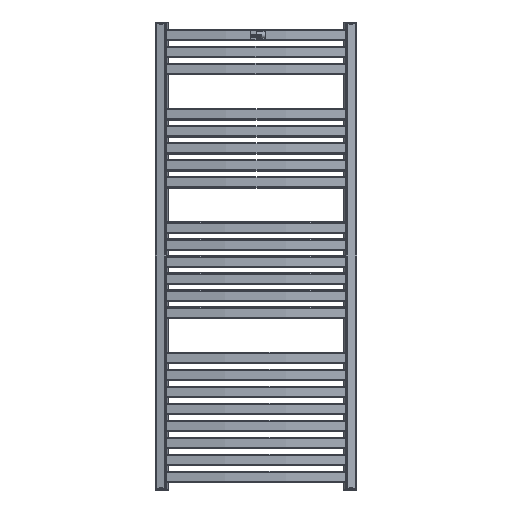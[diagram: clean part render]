
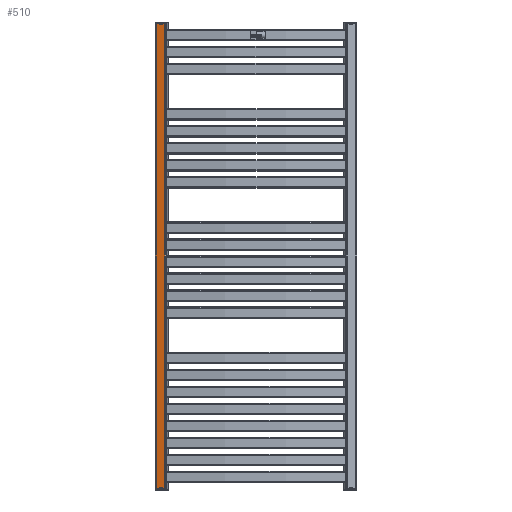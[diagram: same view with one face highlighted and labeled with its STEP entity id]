
A CAD part, front view. The second image highlights one B-rep face of the part: STEP entity #510.
In plain terms, the highlighted planar face has unit normal (-0.205, -0.979, 0) as drawn and (1, 0, 0) by its records, which use the part's own axes.
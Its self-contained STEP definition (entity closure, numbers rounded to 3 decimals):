
#510 = ADVANCED_FACE( '', ( #1187 ), #1188, .T. );
#1187 = FACE_OUTER_BOUND( '', #2049, .T. );
#1188 = PLANE( '', #2050 );
#2049 = EDGE_LOOP( '', ( #3623, #3624, #3625, #3626 ) );
#2050 = AXIS2_PLACEMENT_3D( '', #3627, #3628, #3629 );
#3623 = ORIENTED_EDGE( '', *, *, #5401, .T. );
#3624 = ORIENTED_EDGE( '', *, *, #5498, .T. );
#3625 = ORIENTED_EDGE( '', *, *, #5166, .F. );
#3626 = ORIENTED_EDGE( '', *, *, #5499, .T. );
#3627 = CARTESIAN_POINT( '', ( 15., 1236., -15. ) );
#3628 = DIRECTION( '', ( 1., 0., 0. ) );
#3629 = DIRECTION( '', ( 0., 0., -1. ) );
#5166 = EDGE_CURVE( '', #6282, #6283, #6284, .T. );
#5401 = EDGE_CURVE( '', #6677, #6675, #6678, .T. );
#5498 = EDGE_CURVE( '', #6675, #6283, #6812, .T. );
#5499 = EDGE_CURVE( '', #6282, #6677, #6813, .F. );
#6282 = VERTEX_POINT( '', #7808 );
#6283 = VERTEX_POINT( '', #7809 );
#6284 = LINE( '', #7810, #7811 );
#6675 = VERTEX_POINT( '', #8311 );
#6677 = VERTEX_POINT( '', #8313 );
#6678 = LINE( '', #8314, #8315 );
#6812 = LINE( '', #8499, #8500 );
#6813 = LINE( '', #8501, #8502 );
#7808 = CARTESIAN_POINT( '', ( 15., 0., -12. ) );
#7809 = CARTESIAN_POINT( '', ( 15., 0., 12. ) );
#7810 = CARTESIAN_POINT( '', ( 15., 0., -15. ) );
#7811 = VECTOR( '', #9374, 1000. );
#8311 = CARTESIAN_POINT( '', ( 15., 1236., 12. ) );
#8313 = CARTESIAN_POINT( '', ( 15., 1236., -12. ) );
#8314 = CARTESIAN_POINT( '', ( 15., 1236., -15. ) );
#8315 = VECTOR( '', #9793, 1000. );
#8499 = CARTESIAN_POINT( '', ( 15., 1236., 12. ) );
#8500 = VECTOR( '', #9892, 1000. );
#8501 = CARTESIAN_POINT( '', ( 15., 1236., -12. ) );
#8502 = VECTOR( '', #9893, 1000. );
#9374 = DIRECTION( '', ( 0., 0., 1. ) );
#9793 = DIRECTION( '', ( 0., 0., 1. ) );
#9892 = DIRECTION( '', ( 0., -1., 0. ) );
#9893 = DIRECTION( '', ( 0., -1., 0. ) );
